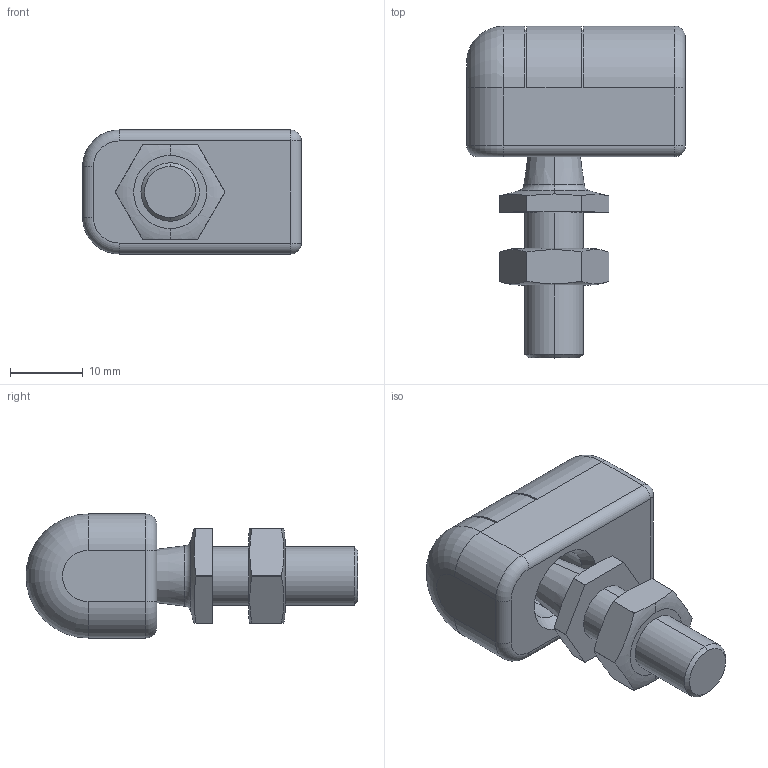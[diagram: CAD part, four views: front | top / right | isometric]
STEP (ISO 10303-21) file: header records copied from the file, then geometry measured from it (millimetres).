
FILE_DESCRIPTION (( 'STEP AP214' ), '1' );
FILE_NAME ('13.CS10M8M8KNST.STEP', '2018-01-30T12:23:07', ( '' ), ( '' ), 'SwSTEP 2.0', 'SolidWorks 2017', '' );
FILE_SCHEMA (( 'AUTOMOTIVE_DESIGN' ));
Length unit declared in the file: millimetre
Products named in the file (1): 13.CS10M8M8KNST
Bounding box: 30 x 45.5 x 17 mm (x, y, z)
Volume: 9572.9 mm3; surface area: 4365.5 mm2
Topology: 2 solids, 2 shells, 89 faces, 217 edges, 131 vertices
Faces by surface type: plane 36, cylinder 27, cone 12, torus 10, sphere 4
Entity records: 2725 total; most frequent: CARTESIAN_POINT 570, DIRECTION 460, ORIENTED_EDGE 416, EDGE_CURVE 208, AXIS2_PLACEMENT_3D 186, VERTEX_POINT 128, CIRCLE 96, EDGE_LOOP 94
